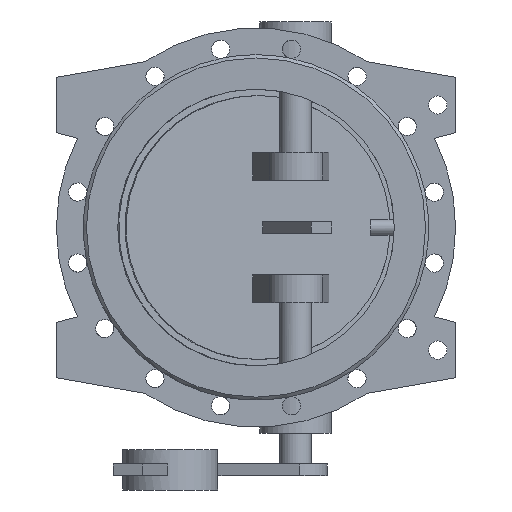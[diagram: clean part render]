
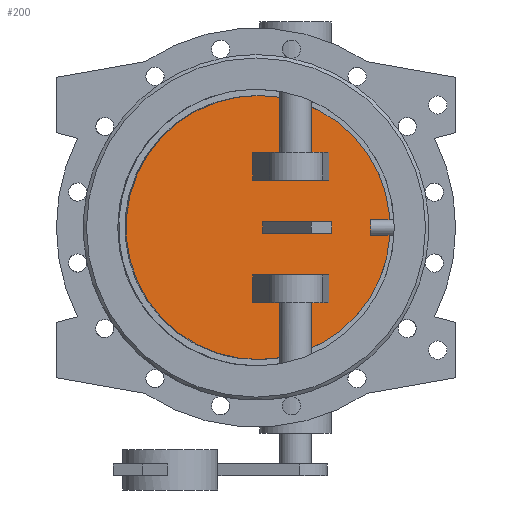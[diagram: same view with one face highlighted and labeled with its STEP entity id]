
A CAD part, front view. The second image highlights one B-rep face of the part: STEP entity #200.
In plain terms, the highlighted planar face has unit normal (0.131, -0.991, 0).
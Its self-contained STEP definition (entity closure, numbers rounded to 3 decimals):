
#200=ADVANCED_FACE('',(#1366,#1368,#1370,#1372),#1374,.T.);
#1366=FACE_BOUND('',#1367,.T.);
#1367=EDGE_LOOP('',(#2584));
#1368=FACE_BOUND('',#1369,.T.);
#1369=EDGE_LOOP('',(#2585,#2586,#2587,#2588));
#1370=FACE_BOUND('',#1371,.T.);
#1371=EDGE_LOOP('',(#2589,#2590,#2591,#2592));
#1372=FACE_BOUND('',#1373,.T.);
#1373=EDGE_LOOP('',(#2593,#2594,#2595,#2596));
#1374=PLANE('',#1375);
#1375=AXIS2_PLACEMENT_3D('',#1376,#1377,#1378);
#1376=CARTESIAN_POINT('',(-1.272,9.66,0.));
#1377=DIRECTION('',(0.131,-0.991,0.));
#1378=DIRECTION('',(0.,0.,-1.));
#2584=ORIENTED_EDGE('',*,*,#3164,.T.);
#2585=ORIENTED_EDGE('',*,*,#3191,.F.);
#2586=ORIENTED_EDGE('',*,*,#3192,.F.);
#2587=ORIENTED_EDGE('',*,*,#3193,.F.);
#2588=ORIENTED_EDGE('',*,*,#3194,.F.);
#2589=ORIENTED_EDGE('',*,*,#3195,.F.);
#2590=ORIENTED_EDGE('',*,*,#3196,.F.);
#2591=ORIENTED_EDGE('',*,*,#3197,.F.);
#2592=ORIENTED_EDGE('',*,*,#3198,.F.);
#2593=ORIENTED_EDGE('',*,*,#3199,.F.);
#2594=ORIENTED_EDGE('',*,*,#3200,.F.);
#2595=ORIENTED_EDGE('',*,*,#3201,.F.);
#2596=ORIENTED_EDGE('',*,*,#3202,.F.);
#3164=EDGE_CURVE('',#3499,#3499,#3500,.T.);
#3191=EDGE_CURVE('',#3553,#3554,#3555,.T.);
#3192=EDGE_CURVE('',#3556,#3553,#3557,.F.);
#3193=EDGE_CURVE('',#3558,#3556,#3559,.T.);
#3194=EDGE_CURVE('',#3554,#3558,#3560,.T.);
#3195=EDGE_CURVE('',#3561,#3562,#3563,.F.);
#3196=EDGE_CURVE('',#3564,#3561,#3565,.T.);
#3197=EDGE_CURVE('',#3566,#3564,#3567,.T.);
#3198=EDGE_CURVE('',#3562,#3566,#3568,.T.);
#3199=EDGE_CURVE('',#3569,#3570,#3571,.T.);
#3200=EDGE_CURVE('',#3572,#3569,#3573,.F.);
#3201=EDGE_CURVE('',#3574,#3572,#3575,.F.);
#3202=EDGE_CURVE('',#3570,#3574,#3576,.F.);
#3499=VERTEX_POINT('',#4710);
#3500=B_SPLINE_CURVE_WITH_KNOTS('',3,
(#4711,#4712,#4713,#4714,#4715,#4716,#4717,#4718,#4719,#4720,#4721,#4722,#4723,#4724,
#4725,#4726,#4727,#4728,#4729,#4730,#4731,#4732,#4733,#4734,#4735,#4736,#4737,#4738,
#4739,#4740,#4741,#4742,#4743,#4744,#4745,#4746,#4747,#4748,#4749,#4750,#4751,#4752,
#4753,#4754,#4755,#4756,#4757,#4758,#4759,#4760,#4761),
.UNSPECIFIED.,.T.,.F.,
(4,1,1,1,1,1,1,1,1,1,1,1,1,1,1,1,1,1,1,1,1,1,1,1,1,1,1,1,1,1,1,1,1,1,1,1,1,1,1,1,
1,1,1,1,1,1,1,1,4),
(0.,0.021,0.042,0.063,0.084,
0.105,0.126,0.147,0.168,0.189,
0.211,0.232,0.253,0.274,0.295,
0.316,0.337,0.358,0.379,0.4,
0.421,0.442,0.463,0.484,0.505,
0.526,0.548,0.569,0.59,0.611,
0.632,0.653,0.674,0.695,0.716,
0.737,0.758,0.779,0.8,0.821,
0.843,0.864,0.885,0.906,0.927,
0.948,0.969,0.986,1.),
.UNSPECIFIED.);
#3553=VERTEX_POINT('',#4939);
#3554=VERTEX_POINT('',#4940);
#3555=LINE('',#4941,#4942);
#3556=VERTEX_POINT('',#4944);
#3557=LINE('',#4945,#4946);
#3558=VERTEX_POINT('',#4948);
#3559=LINE('',#4949,#4950);
#3560=LINE('',#4952,#4953);
#3561=VERTEX_POINT('',#4955);
#3562=VERTEX_POINT('',#4956);
#3563=LINE('',#4957,#4958);
#3564=VERTEX_POINT('',#4960);
#3565=LINE('',#4961,#4962);
#3566=VERTEX_POINT('',#4964);
#3567=LINE('',#4965,#4966);
#3568=LINE('',#4968,#4969);
#3569=VERTEX_POINT('',#4971);
#3570=VERTEX_POINT('',#4972);
#3571=LINE('',#4973,#4974);
#3572=VERTEX_POINT('',#4976);
#3573=LINE('',#4977,#4978);
#3574=VERTEX_POINT('',#4980);
#3575=LINE('',#4981,#4982);
#3576=LINE('',#4984,#4985);
#4710=CARTESIAN_POINT('',(2.611,10.171,167.));
#4711=CARTESIAN_POINT('',(2.611,10.171,167.));
#4712=CARTESIAN_POINT('',(-4.724,9.205,167.));
#4713=CARTESIAN_POINT('',(-19.411,7.272,166.032));
#4714=CARTESIAN_POINT('',(-41.088,4.418,161.691));
#4715=CARTESIAN_POINT('',(-62.035,1.66,154.521));
#4716=CARTESIAN_POINT('',(-81.869,-0.951,144.642));
#4717=CARTESIAN_POINT('',(-100.223,-3.367,132.235));
#4718=CARTESIAN_POINT('',(-116.783,-5.547,117.513));
#4719=CARTESIAN_POINT('',(-131.255,-7.453,100.733));
#4720=CARTESIAN_POINT('',(-143.386,-9.05,82.188));
#4721=CARTESIAN_POINT('',(-152.963,-10.311,62.202));
#4722=CARTESIAN_POINT('',(-159.817,-11.213,41.125));
#4723=CARTESIAN_POINT('',(-163.828,-11.741,19.328));
#4724=CARTESIAN_POINT('',(-164.923,-11.885,-2.809));
#4725=CARTESIAN_POINT('',(-163.086,-11.643,-24.895));
#4726=CARTESIAN_POINT('',(-158.347,-11.019,-46.543));
#4727=CARTESIAN_POINT('',(-150.792,-10.025,-67.374));
#4728=CARTESIAN_POINT('',(-140.554,-8.677,-87.024));
#4729=CARTESIAN_POINT('',(-127.812,-6.999,-105.148));
#4730=CARTESIAN_POINT('',(-112.791,-5.022,-121.432));
#4731=CARTESIAN_POINT('',(-95.754,-2.779,-135.59));
#4732=CARTESIAN_POINT('',(-76.999,-0.31,-147.376));
#4733=CARTESIAN_POINT('',(-56.853,2.343,-156.586));
#4734=CARTESIAN_POINT('',(-35.669,5.132,-163.058));
#4735=CARTESIAN_POINT('',(-13.816,8.009,-166.681));
#4736=CARTESIAN_POINT('',(8.324,10.923,-167.39));
#4737=CARTESIAN_POINT('',(30.365,13.825,-165.174));
#4738=CARTESIAN_POINT('',(51.922,16.663,-160.07));
#4739=CARTESIAN_POINT('',(72.619,19.388,-152.168));
#4740=CARTESIAN_POINT('',(92.093,21.952,-141.604));
#4741=CARTESIAN_POINT('',(110.004,24.31,-128.563));
#4742=CARTESIAN_POINT('',(126.039,26.421,-113.271));
#4743=CARTESIAN_POINT('',(139.916,28.248,-95.995));
#4744=CARTESIAN_POINT('',(151.392,29.759,-77.036));
#4745=CARTESIAN_POINT('',(160.265,30.927,-56.728));
#4746=CARTESIAN_POINT('',(166.377,31.731,-35.424));
#4747=CARTESIAN_POINT('',(169.623,32.159,-13.499));
#4748=CARTESIAN_POINT('',(169.944,32.201,8.661));
#4749=CARTESIAN_POINT('',(167.335,31.857,30.669));
#4750=CARTESIAN_POINT('',(161.842,31.134,52.138));
#4751=CARTESIAN_POINT('',(153.564,30.044,72.692));
#4752=CARTESIAN_POINT('',(142.645,28.607,91.972));
#4753=CARTESIAN_POINT('',(129.278,26.847,109.639));
#4754=CARTESIAN_POINT('',(113.697,24.796,125.388));
#4755=CARTESIAN_POINT('',(96.18,22.49,138.939));
#4756=CARTESIAN_POINT('',(77.054,19.972,150.047));
#4757=CARTESIAN_POINT('',(56.596,17.278,158.557));
#4758=CARTESIAN_POINT('',(36.422,14.622,163.964));
#4759=CARTESIAN_POINT('',(18.283,12.234,166.532));
#4760=CARTESIAN_POINT('',(7.401,10.802,167.));
#4761=CARTESIAN_POINT('',(2.611,10.171,167.));
#4939=CARTESIAN_POINT('',(82.749,20.722,-7.5));
#4940=CARTESIAN_POINT('',(82.749,20.722,7.5));
#4941=CARTESIAN_POINT('',(82.749,20.722,-7.5));
#4942=VECTOR('',#4943,1.);
#4943=DIRECTION('',(0.,0.,1.));
#4944=CARTESIAN_POINT('',(8.391,10.932,-7.5));
#4945=CARTESIAN_POINT('',(82.749,20.722,-7.5));
#4946=VECTOR('',#4947,1.);
#4947=DIRECTION('',(-0.991,-0.131,0.));
#4948=CARTESIAN_POINT('',(8.391,10.932,7.5));
#4949=CARTESIAN_POINT('',(8.391,10.932,7.5));
#4950=VECTOR('',#4951,1.);
#4951=DIRECTION('',(0.,0.,-1.));
#4952=CARTESIAN_POINT('',(82.749,20.722,7.5));
#4953=VECTOR('',#4954,1.);
#4954=DIRECTION('',(-0.991,-0.131,0.));
#4955=CARTESIAN_POINT('',(-4.154,9.281,-95.));
#4956=CARTESIAN_POINT('',(92.142,21.958,-95.));
#4957=CARTESIAN_POINT('',(92.142,21.958,-95.));
#4958=VECTOR('',#4959,1.);
#4959=DIRECTION('',(-0.991,-0.131,0.));
#4960=CARTESIAN_POINT('',(-4.154,9.281,-60.));
#4961=CARTESIAN_POINT('',(-4.154,9.281,-60.));
#4962=VECTOR('',#4963,1.);
#4963=DIRECTION('',(0.,0.,-1.));
#4964=CARTESIAN_POINT('',(92.142,21.958,-60.));
#4965=CARTESIAN_POINT('',(92.142,21.958,-60.));
#4966=VECTOR('',#4967,1.);
#4967=DIRECTION('',(-0.991,-0.131,0.));
#4968=CARTESIAN_POINT('',(92.142,21.958,-95.));
#4969=VECTOR('',#4970,1.);
#4970=DIRECTION('',(0.,0.,1.));
#4971=CARTESIAN_POINT('',(92.142,21.958,95.));
#4972=CARTESIAN_POINT('',(-4.154,9.281,95.));
#4973=CARTESIAN_POINT('',(92.142,21.958,95.));
#4974=VECTOR('',#4975,1.);
#4975=DIRECTION('',(-0.991,-0.131,0.));
#4976=CARTESIAN_POINT('',(92.142,21.958,60.));
#4977=CARTESIAN_POINT('',(92.142,21.958,95.));
#4978=VECTOR('',#4979,1.);
#4979=DIRECTION('',(0.,0.,-1.));
#4980=CARTESIAN_POINT('',(-4.154,9.281,60.));
#4981=CARTESIAN_POINT('',(92.142,21.958,60.));
#4982=VECTOR('',#4983,1.);
#4983=DIRECTION('',(-0.991,-0.131,0.));
#4984=CARTESIAN_POINT('',(-4.154,9.281,60.));
#4985=VECTOR('',#4986,1.);
#4986=DIRECTION('',(0.,0.,1.));
